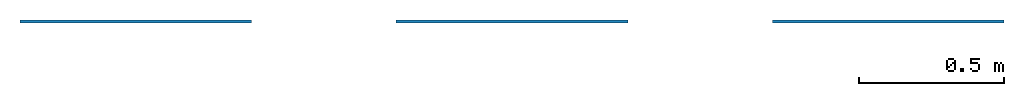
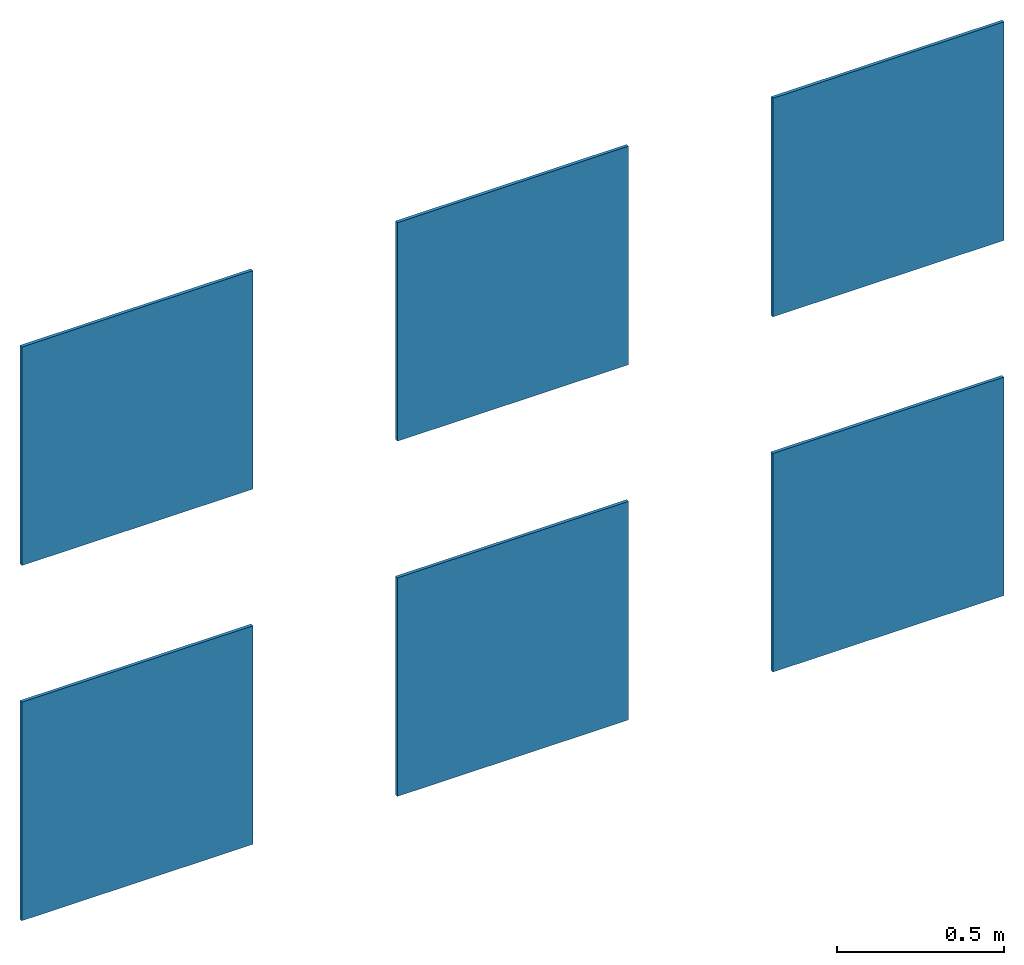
# One storey: 6 walls.
"""IFC2X3 building model written with IfcOpenShell, lengths in metres."""

from ifc_helpers import new_model, entity, si_unit, converted_unit, derived_unit, direction, frame, frame_2d, origin, place, context, subcontext, project, spatial, rectangle, extrude, material, layer, layer_set, layer_usage, type_object, element, save


model = new_model("IFC2X3")

# Units and contexts
model_context = context("Model", 3, precision=1e-05, world=origin(), true_north=direction((6.12303176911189e-17, 1.0)))
body_context = subcontext(model_context, "Body", "Model", "MODEL_VIEW")
ifc_project = project(units=[si_unit("LENGTHUNIT", "METRE"), si_unit("AREAUNIT", "SQUARE_METRE"), si_unit("VOLUMEUNIT", "CUBIC_METRE"), converted_unit("PLANEANGLEUNIT", "DEGREE", entity("IfcRatioMeasure", 0.0174532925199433), si_unit("PLANEANGLEUNIT", "RADIAN"), dimensions=[0, 0, 0, 0, 0, 0, 0]), si_unit("MASSUNIT", "GRAM", prefix="KILO"), si_unit("TIMEUNIT", "SECOND"), si_unit("FREQUENCYUNIT", "HERTZ"), si_unit("THERMODYNAMICTEMPERATUREUNIT", "DEGREE_CELSIUS"), derived_unit("THERMALTRANSMITTANCEUNIT", [(si_unit("MASSUNIT", "GRAM", prefix="KILO"), 1), (si_unit("THERMODYNAMICTEMPERATUREUNIT", "KELVIN"), -1), (si_unit("TIMEUNIT", "SECOND"), -3)]), derived_unit("VOLUMETRICFLOWRATEUNIT", [(si_unit("LENGTHUNIT", "METRE"), 3), (si_unit("TIMEUNIT", "SECOND"), -1)]), si_unit("ELECTRICCURRENTUNIT", "AMPERE"), si_unit("ELECTRICVOLTAGEUNIT", "VOLT"), si_unit("POWERUNIT", "WATT"), si_unit("FORCEUNIT", "NEWTON", prefix="KILO"), si_unit("ILLUMINANCEUNIT", "LUX"), si_unit("LUMINOUSFLUXUNIT", "LUMEN"), si_unit("LUMINOUSINTENSITYUNIT", "CANDELA"), derived_unit("USERDEFINED", [(si_unit("MASSUNIT", "GRAM", prefix="KILO"), -1), (si_unit("LENGTHUNIT", "METRE"), -2), (si_unit("TIMEUNIT", "SECOND"), 3), (si_unit("LUMINOUSFLUXUNIT", "LUMEN"), 1)]), derived_unit("LINEARVELOCITYUNIT", [(si_unit("LENGTHUNIT", "METRE"), 1), (si_unit("TIMEUNIT", "SECOND"), -1)]), si_unit("PRESSUREUNIT", "PASCAL"), derived_unit("USERDEFINED", [(si_unit("LENGTHUNIT", "METRE"), -2), (si_unit("MASSUNIT", "GRAM", prefix="KILO"), 1), (si_unit("TIMEUNIT", "SECOND"), -2)])], contexts=[model_context])

# Site, building, storey
site_placement = place(None, origin())
site = spatial("IfcSite", under=ifc_project, at=site_placement, Name="Default", CompositionType="ELEMENT")
building_placement = place(site_placement, origin())
building = spatial("IfcBuilding", under=site, at=building_placement, CompositionType="ELEMENT")
storey_placement = place(building_placement, frame((0.0, 0.0, 3.0)))
storey = spatial("IfcBuildingStorey", under=building, at=storey_placement, Name="Nivel 2", CompositionType="ELEMENT", Elevation=3.0)

# Walls
ifc_material_1 = material(Name="VIVES LAVERTON-R ARENA 80x80")
ifc_layer_1 = layer(ifc_material_1, 0.011)
ifc_layer_set_1 = layer_set([ifc_layer_1], Name="Muro básico:VIVES LAVERTON-R ARENA 80x80")
ifc_layer_usage_1 = layer_usage(ifc_layer_set_1, "AXIS2", "NEGATIVE", 0.0055)
wall_type_1 = type_object("IfcWallType", Name="Muro básico:VIVES LAVERTON-R ARENA 80x80", PredefinedType="STANDARD", material=ifc_layer_set_1)
wall_1_placement = place(storey_placement, frame((15.8884057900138, 0.616672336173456, 1.33322651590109)))
element("IfcWallStandardCase", 1, at=wall_1_placement, inside=storey, type_object=wall_type_1, material=ifc_layer_usage_1, Name="Muro básico:VIVES LAVERTON-R ARENA 80x80", ObjectType="Muro básico:VIVES LAVERTON-R ARENA 80x80", context=body_context, shape_type="SweptSolid", body=[
    extrude(rectangle(XDim=0.800000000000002, YDim=0.0109999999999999, at=frame_2d((0.400000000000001, 3.33934269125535e-17), x_axis=(-1.0, 0.0))), origin(), (0.0, 0.0, 1.0), 0.8),
])
ifc_material_2 = material(Name="VIVES LAVERTON-R NIEVE 80x80")
ifc_layer_2 = layer(ifc_material_2, 0.011)
ifc_layer_set_2 = layer_set([ifc_layer_2], Name="Muro básico:VIVES LAVERTON-R NIEVE 80x80")
ifc_layer_usage_2 = layer_usage(ifc_layer_set_2, "AXIS2", "NEGATIVE", 0.0055)
wall_type_2 = type_object("IfcWallType", Name="Muro básico:VIVES LAVERTON-R NIEVE 80x80", PredefinedType="STANDARD", material=ifc_layer_set_2)
wall_2_placement = place(storey_placement, frame((17.1884057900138, 0.616672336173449, 1.33322651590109)))
element("IfcWallStandardCase", 2, at=wall_2_placement, inside=storey, type_object=wall_type_2, material=ifc_layer_usage_2, Name="Muro básico:VIVES LAVERTON-R NIEVE 80x80", ObjectType="Muro básico:VIVES LAVERTON-R NIEVE 80x80", context=body_context, shape_type="SweptSolid", body=[
    extrude(rectangle(XDim=0.800000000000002, YDim=0.0109999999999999, at=frame_2d((0.400000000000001, 3.33934269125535e-17), x_axis=(-1.0, 0.0))), origin(), (0.0, 0.0, 1.0), 0.8),
])
ifc_material_3 = material(Name="VIVES LAVERTON-R BEIGE 80x80")
ifc_layer_3 = layer(ifc_material_3, 0.011)
ifc_layer_set_3 = layer_set([ifc_layer_3], Name="Muro básico:VIVES LAVERTON-R BEIGE 80x80")
ifc_layer_usage_3 = layer_usage(ifc_layer_set_3, "AXIS2", "NEGATIVE", 0.0055)
wall_type_3 = type_object("IfcWallType", Name="Muro básico:VIVES LAVERTON-R BEIGE 80x80", PredefinedType="STANDARD", material=ifc_layer_set_3)
wall_3_placement = place(storey_placement, frame((18.4884057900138, 0.616672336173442, 1.33322651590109)))
element("IfcWallStandardCase", 3, at=wall_3_placement, inside=storey, type_object=wall_type_3, material=ifc_layer_usage_3, Name="Muro básico:VIVES LAVERTON-R BEIGE 80x80", ObjectType="Muro básico:VIVES LAVERTON-R BEIGE 80x80", context=body_context, shape_type="SweptSolid", body=[
    extrude(rectangle(XDim=0.800000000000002, YDim=0.0109999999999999, at=frame_2d((0.400000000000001, 3.33934269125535e-17), x_axis=(-1.0, 0.0))), origin(), (0.0, 0.0, 1.0), 0.8),
])
ifc_material_4 = material(Name="VIVES LAVERTON-R GRIS 80x80")
ifc_layer_4 = layer(ifc_material_4, 0.011)
ifc_layer_set_4 = layer_set([ifc_layer_4], Name="Muro básico:VIVES LAVERTON-R GRIS 80x80")
ifc_layer_usage_4 = layer_usage(ifc_layer_set_4, "AXIS2", "NEGATIVE", 0.0055)
wall_type_4 = type_object("IfcWallType", Name="Muro básico:VIVES LAVERTON-R GRIS 80x80", PredefinedType="STANDARD", material=ifc_layer_set_4)
wall_4_placement = place(storey_placement, frame((15.8884057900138, 0.616672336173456, 0.0332265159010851)))
element("IfcWallStandardCase", 4, at=wall_4_placement, inside=storey, type_object=wall_type_4, material=ifc_layer_usage_4, Name="Muro básico:VIVES LAVERTON-R GRIS 80x80", ObjectType="Muro básico:VIVES LAVERTON-R GRIS 80x80", context=body_context, shape_type="SweptSolid", body=[
    extrude(rectangle(XDim=0.800000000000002, YDim=0.0109999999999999, at=frame_2d((0.400000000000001, 3.33934269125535e-17), x_axis=(-1.0, 0.0))), origin(), (0.0, 0.0, 1.0), 0.8),
])
ifc_material_5 = material(Name="VIVES LAVERTON-R NATURAL 80x80")
ifc_layer_5 = layer(ifc_material_5, 0.011)
ifc_layer_set_5 = layer_set([ifc_layer_5], Name="Muro básico:VIVES LAVERTON-R NATURAL 80x80")
ifc_layer_usage_5 = layer_usage(ifc_layer_set_5, "AXIS2", "NEGATIVE", 0.0055)
wall_type_5 = type_object("IfcWallType", Name="Muro básico:VIVES LAVERTON-R NATURAL 80x80", PredefinedType="STANDARD", material=ifc_layer_set_5)
wall_5_placement = place(storey_placement, frame((17.1884057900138, 0.616672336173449, 0.0332265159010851)))
element("IfcWallStandardCase", 5, at=wall_5_placement, inside=storey, type_object=wall_type_5, material=ifc_layer_usage_5, Name="Muro básico:VIVES LAVERTON-R NATURAL 80x80", ObjectType="Muro básico:VIVES LAVERTON-R NATURAL 80x80", context=body_context, shape_type="SweptSolid", body=[
    extrude(rectangle(XDim=0.800000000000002, YDim=0.0109999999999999, at=frame_2d((0.400000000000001, 3.33934269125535e-17), x_axis=(-1.0, 0.0))), origin(), (0.0, 0.0, 1.0), 0.8),
])
ifc_material_6 = material(Name="VIVES LAVERTON-R GRAFITO 80x80")
ifc_layer_6 = layer(ifc_material_6, 0.011)
ifc_layer_set_6 = layer_set([ifc_layer_6], Name="Muro básico:VIVES LAVERTON-R GRAFITO 80x80")
ifc_layer_usage_6 = layer_usage(ifc_layer_set_6, "AXIS2", "NEGATIVE", 0.0055)
wall_type_6 = type_object("IfcWallType", Name="Muro básico:VIVES LAVERTON-R GRAFITO 80x80", PredefinedType="STANDARD", material=ifc_layer_set_6)
wall_6_placement = place(storey_placement, frame((18.4884057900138, 0.616672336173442, 0.0332265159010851)))
element("IfcWallStandardCase", 6, at=wall_6_placement, inside=storey, type_object=wall_type_6, material=ifc_layer_usage_6, Name="Muro básico:VIVES LAVERTON-R GRAFITO 80x80", ObjectType="Muro básico:VIVES LAVERTON-R GRAFITO 80x80", context=body_context, shape_type="SweptSolid", body=[
    extrude(rectangle(XDim=0.800000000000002, YDim=0.0109999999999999, at=frame_2d((0.400000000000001, 3.33934269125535e-17), x_axis=(-1.0, 0.0))), origin(), (0.0, 0.0, 1.0), 0.8),
])

save(model, "model.ifc")
